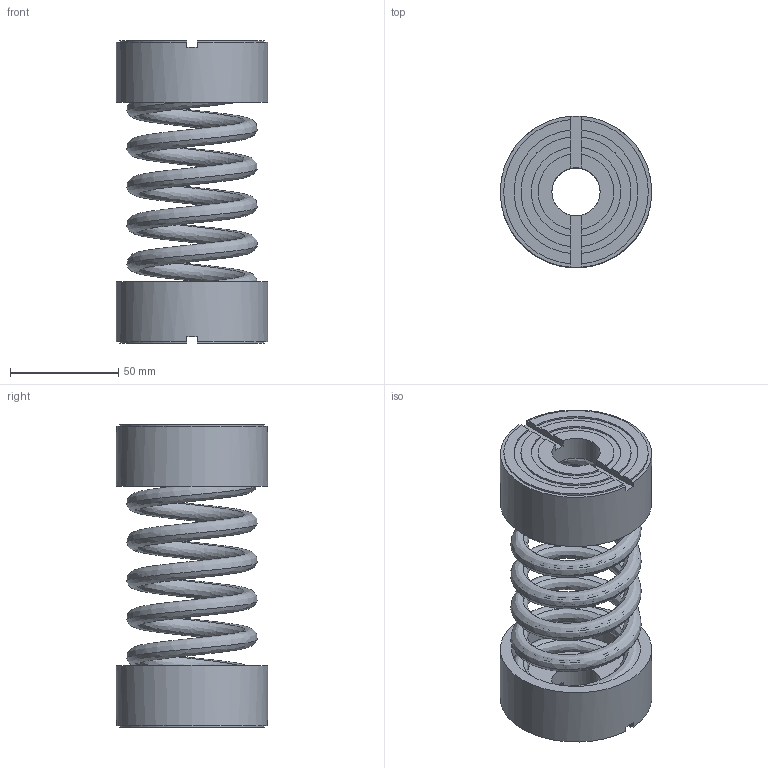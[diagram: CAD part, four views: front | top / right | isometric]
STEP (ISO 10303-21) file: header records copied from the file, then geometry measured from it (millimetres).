
FILE_DESCRIPTION(/* description */ (''),/* implementation_level */ '2;1');
FILE_NAME(/* name */ '\\Mleuckthor2\cad-proe_solids\WEBSITE FILES 05.22.13\STEP\IMF\IMF-B2-680.stp',/* time_stamp */ '2016-03-05T16:24:56-05:00',/* author */ ('rramoutar'),/* organization */ ('Mason Industries Inc.'),/* preprocessor_version */ 'ST-DEVELOPER v15.6',/* originating_system */ 'Autodesk Inventor 2015',/* authorisation */ '');
FILE_SCHEMA (('CONFIG_CONTROL_DESIGN'));
Length unit declared in the file: inch
Products named in the file (1): IMF-B2-680
Bounding box: 69.85 x 69.85 x 139.7 mm (x, y, z)
Volume: 129096.5 mm3; surface area: 101899.8 mm2
Topology: 5 solids, 7 shells, 112 faces, 294 edges, 196 vertices
Faces by surface type: plane 54, cylinder 36, bspline 22
Full cylindrical faces by diameter (mm): 22.225 x2, 29.369 x4, 59.531 x2, 60.325 x4, 69.85 x2
Entity records: 13456 total; most frequent: CARTESIAN_POINT 10662, ORIENTED_EDGE 552, DIRECTION 496, EDGE_CURVE 276, VERTEX_POINT 192, AXIS2_PLACEMENT_3D 177, LINE 142, VECTOR 142
